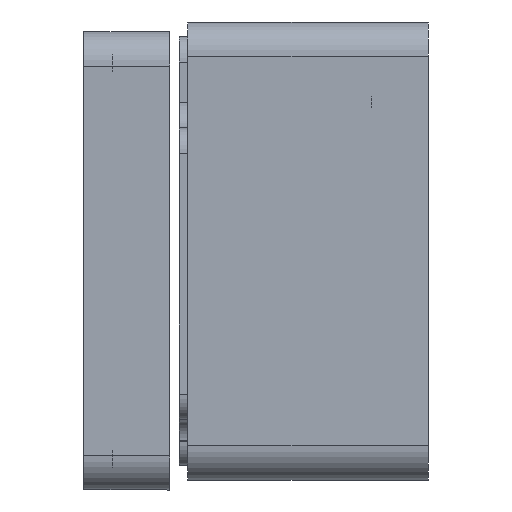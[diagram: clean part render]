
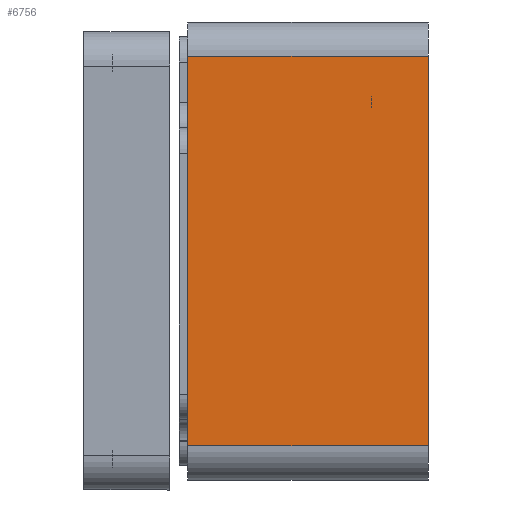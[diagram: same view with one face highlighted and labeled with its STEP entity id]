
A CAD part, left-side view. The second image highlights one B-rep face of the part: STEP entity #6756.
In plain terms, the highlighted planar face has unit normal (-1, 0, 0).
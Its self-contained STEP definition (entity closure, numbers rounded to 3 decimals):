
#1281 = LINE ( 'NONE', #4947, #17794 ) ;
#1894 = CARTESIAN_POINT ( 'NONE',  ( -125., 0., -40. ) ) ;
#2017 = ORIENTED_EDGE ( 'NONE', *, *, #21427, .T. ) ;
#3594 = LINE ( 'NONE', #1894, #21681 ) ;
#3867 = CARTESIAN_POINT ( 'NONE',  ( -125., 42., -40. ) ) ;
#3903 = VERTEX_POINT ( 'NONE', #4434 ) ;
#4135 = EDGE_LOOP ( 'NONE', ( #2017, #7730, #21474, #16624 ) ) ;
#4434 = CARTESIAN_POINT ( 'NONE',  ( -125., 42., -34. ) ) ;
#4766 = EDGE_CURVE ( 'NONE', #3903, #6760, #1281, .T. ) ;
#4947 = CARTESIAN_POINT ( 'NONE',  ( -125., 42., -40. ) ) ;
#4961 = EDGE_CURVE ( 'NONE', #8382, #6760, #13210, .T. ) ;
#6191 = FACE_OUTER_BOUND ( 'NONE', #4135, .T. ) ;
#6756 = ADVANCED_FACE ( 'NONE', ( #6191 ), #13107, .F. ) ;
#6760 = VERTEX_POINT ( 'NONE', #13948 ) ;
#7730 = ORIENTED_EDGE ( 'NONE', *, *, #4961, .T. ) ;
#8382 = VERTEX_POINT ( 'NONE', #18023 ) ;
#8641 = LINE ( 'NONE', #16067, #21633 ) ;
#9586 = DIRECTION ( 'NONE',  ( 0., 0., -1. ) ) ;
#10353 = DIRECTION ( 'NONE',  ( 0., -1., 0. ) ) ;
#10536 = DIRECTION ( 'NONE',  ( 0., 0., 1. ) ) ;
#10639 = AXIS2_PLACEMENT_3D ( 'NONE', #3867, #15061, #9586 ) ;
#11008 = DIRECTION ( 'NONE',  ( 0., 0., 1. ) ) ;
#13107 = PLANE ( 'NONE',  #10639 ) ;
#13210 = LINE ( 'NONE', #13585, #18970 ) ;
#13585 = CARTESIAN_POINT ( 'NONE',  ( -125., 42., 34. ) ) ;
#13948 = CARTESIAN_POINT ( 'NONE',  ( -125., 42., 34. ) ) ;
#15061 = DIRECTION ( 'NONE',  ( 1., 0., 0. ) ) ;
#16067 = CARTESIAN_POINT ( 'NONE',  ( -125., 42., -34. ) ) ;
#16624 = ORIENTED_EDGE ( 'NONE', *, *, #19592, .T. ) ;
#17794 = VECTOR ( 'NONE', #10536, 1000. ) ;
#18023 = CARTESIAN_POINT ( 'NONE',  ( -125., 0., 34. ) ) ;
#18970 = VECTOR ( 'NONE', #20659, 1000. ) ;
#19592 = EDGE_CURVE ( 'NONE', #3903, #20962, #8641, .T. ) ;
#20659 = DIRECTION ( 'NONE',  ( 0., 1., 0. ) ) ;
#20962 = VERTEX_POINT ( 'NONE', #23477 ) ;
#21427 = EDGE_CURVE ( 'NONE', #20962, #8382, #3594, .T. ) ;
#21474 = ORIENTED_EDGE ( 'NONE', *, *, #4766, .F. ) ;
#21633 = VECTOR ( 'NONE', #10353, 1000. ) ;
#21681 = VECTOR ( 'NONE', #11008, 1000. ) ;
#23477 = CARTESIAN_POINT ( 'NONE',  ( -125., 0., -34. ) ) ;
